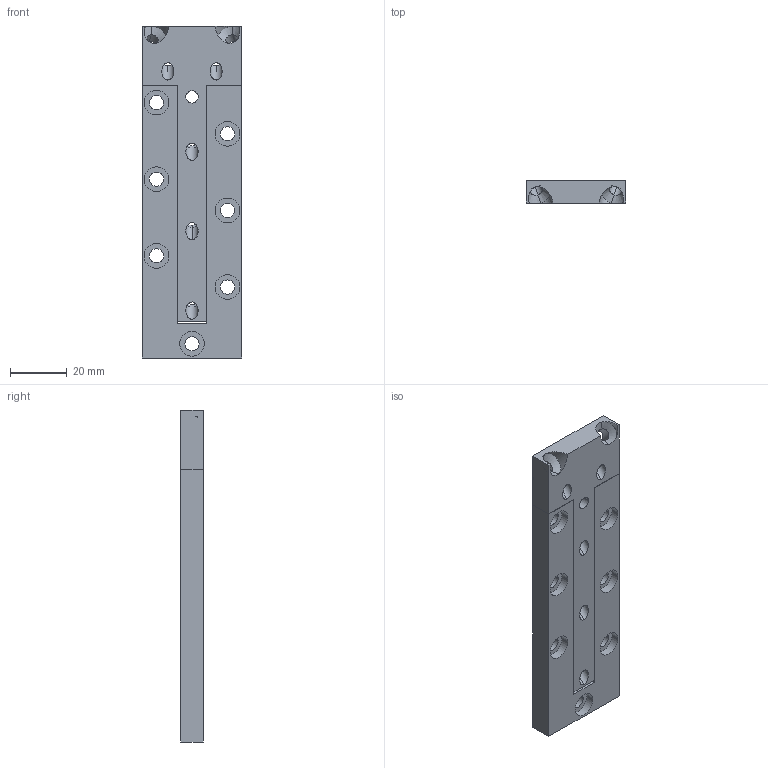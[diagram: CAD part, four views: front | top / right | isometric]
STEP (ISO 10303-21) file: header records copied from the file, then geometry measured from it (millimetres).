
FILE_DESCRIPTION(('STEP AP242'),'1');
FILE_NAME('OPO_86.880.42_volu_schn_3d.stp','2026-04-30T13:30:57',(' '),(' '),'Spatial InterOp 3D',' ',' ');
FILE_SCHEMA(('AP242_MANAGED_MODEL_BASED_3D_ENGINEERING_MIM_LF {1 0 10303 442 1 1 4}'));
Length unit declared in the file: millimetre
Products named in the file (1): 1
Bounding box: 35 x 8 x 117 mm (x, y, z)
Volume: 27128.8 mm3; surface area: 16557.6 mm2
Topology: 2 solids, 2 shells, 155 faces, 846 edges, 1110 vertices
Faces by surface type: cylinder 80, plane 59, cone 16
Entity records: 11847 total; most frequent: CARTESIAN_POINT 1559, DIRECTION 1450, ORIENTED_EDGE 804, STYLED_ITEM 601, PRESENTATION_STYLE_ASSIGNMENT 601, COLOUR_RGB 601, LINE 522, VECTOR 522
